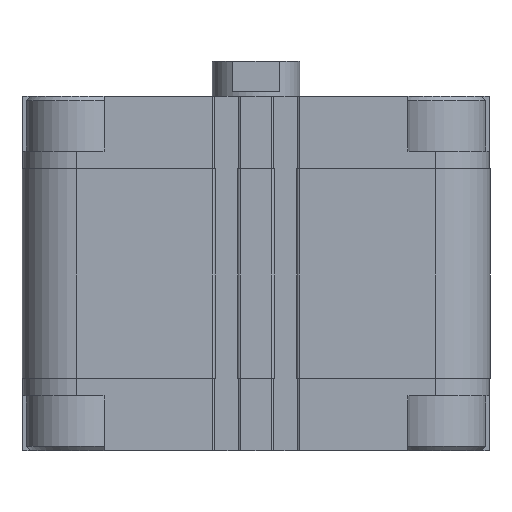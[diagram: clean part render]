
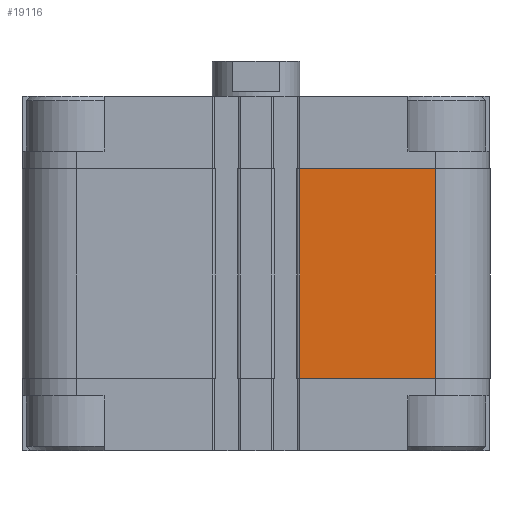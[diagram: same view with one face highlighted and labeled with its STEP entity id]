
A CAD part, front view. The second image highlights one B-rep face of the part: STEP entity #19116.
In plain terms, the highlighted planar face has unit normal (0, -1, 0).
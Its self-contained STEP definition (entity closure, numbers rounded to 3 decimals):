
#1034 = DIRECTION ( 'NONE',  ( -1., 0., 0. ) ) ;
#1585 = ORIENTED_EDGE ( 'NONE', *, *, #13412, .F. ) ;
#2558 = LINE ( 'NONE', #8992, #6116 ) ;
#2605 = DIRECTION ( 'NONE',  ( 0., -1., 0. ) ) ;
#3143 = VERTEX_POINT ( 'NONE', #16911 ) ;
#3233 = CARTESIAN_POINT ( 'NONE',  ( 9.95, -53.5, -64.5 ) ) ;
#4974 = VECTOR ( 'NONE', #14410, 1000. ) ;
#5763 = FACE_OUTER_BOUND ( 'NONE', #20590, .T. ) ;
#6116 = VECTOR ( 'NONE', #15421, 1000. ) ;
#6164 = EDGE_CURVE ( 'NONE', #9008, #3143, #2558, .T. ) ;
#6972 = CARTESIAN_POINT ( 'NONE',  ( 9.95, -53.5, -16.5 ) ) ;
#7226 = CARTESIAN_POINT ( 'NONE',  ( 9.95, -53.5, -16.5 ) ) ;
#7808 = VECTOR ( 'NONE', #13997, 1000. ) ;
#7873 = CARTESIAN_POINT ( 'NONE',  ( 9.95, -53.5, -64.5 ) ) ;
#8992 = CARTESIAN_POINT ( 'NONE',  ( 41., -53.5, -64.5 ) ) ;
#9008 = VERTEX_POINT ( 'NONE', #16690 ) ;
#9860 = ORIENTED_EDGE ( 'NONE', *, *, #6164, .T. ) ;
#10712 = CARTESIAN_POINT ( 'NONE',  ( 9.95, -53.5, -64.5 ) ) ;
#11065 = VERTEX_POINT ( 'NONE', #14648 ) ;
#11161 = AXIS2_PLACEMENT_3D ( 'NONE', #10712, #2605, #1034 ) ;
#11577 = VERTEX_POINT ( 'NONE', #7226 ) ;
#11802 = PLANE ( 'NONE',  #11161 ) ;
#11929 = LINE ( 'NONE', #6972, #16599 ) ;
#12614 = ORIENTED_EDGE ( 'NONE', *, *, #20205, .F. ) ;
#13401 = DIRECTION ( 'NONE',  ( 1., 0., 0. ) ) ;
#13412 = EDGE_CURVE ( 'NONE', #11065, #11577, #17785, .T. ) ;
#13559 = ORIENTED_EDGE ( 'NONE', *, *, #19168, .T. ) ;
#13997 = DIRECTION ( 'NONE',  ( 1., 0., 0. ) ) ;
#14410 = DIRECTION ( 'NONE',  ( 0., 0., 1. ) ) ;
#14648 = CARTESIAN_POINT ( 'NONE',  ( 9.95, -53.5, -64.5 ) ) ;
#15421 = DIRECTION ( 'NONE',  ( 0., 0., 1. ) ) ;
#16599 = VECTOR ( 'NONE', #13401, 1000. ) ;
#16690 = CARTESIAN_POINT ( 'NONE',  ( 41., -53.5, -64.5 ) ) ;
#16911 = CARTESIAN_POINT ( 'NONE',  ( 41., -53.5, -16.5 ) ) ;
#17785 = LINE ( 'NONE', #7873, #4974 ) ;
#19116 = ADVANCED_FACE ( 'NONE', ( #5763 ), #11802, .T. ) ;
#19157 = LINE ( 'NONE', #3233, #7808 ) ;
#19168 = EDGE_CURVE ( 'NONE', #11065, #9008, #19157, .T. ) ;
#20205 = EDGE_CURVE ( 'NONE', #11577, #3143, #11929, .T. ) ;
#20590 = EDGE_LOOP ( 'NONE', ( #12614, #1585, #13559, #9860 ) ) ;
